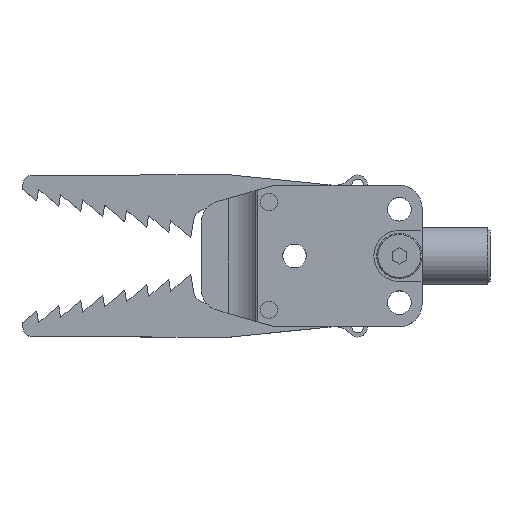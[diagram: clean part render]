
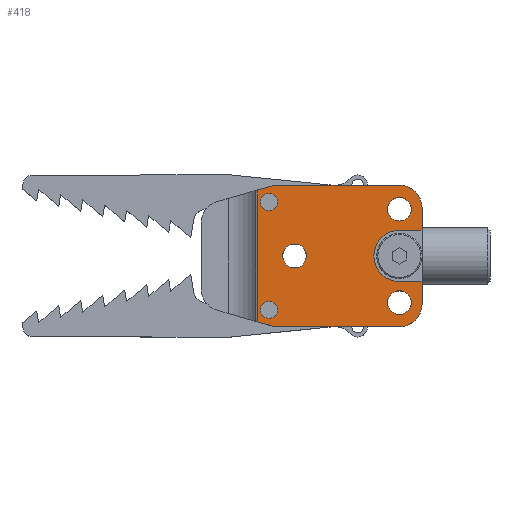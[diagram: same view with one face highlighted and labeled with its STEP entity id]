
A CAD part, top view. The second image highlights one B-rep face of the part: STEP entity #418.
In plain terms, the highlighted planar face has unit normal (0, 0, 1).
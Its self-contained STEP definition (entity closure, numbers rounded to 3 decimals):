
#418=ADVANCED_FACE('',(#789,#790,#791,#792,#793,#794),#795,.T.);
#789=FACE_BOUND('',#1175,.T.);
#790=FACE_BOUND('',#1176,.T.);
#791=FACE_BOUND('',#1177,.T.);
#792=FACE_BOUND('',#1178,.T.);
#793=FACE_BOUND('',#1179,.T.);
#794=FACE_OUTER_BOUND('',#1180,.T.);
#795=PLANE('',#1181);
#1175=EDGE_LOOP('',(#1949));
#1176=EDGE_LOOP('',(#1950));
#1177=EDGE_LOOP('',(#1951));
#1178=EDGE_LOOP('',(#1952));
#1179=EDGE_LOOP('',(#1953));
#1180=EDGE_LOOP('',(#1954,#1955,#1956,#1957,#1958,#1959,#1960,#1961,#1962,#1963,#1964,#1965));
#1181=AXIS2_PLACEMENT_3D('',#1966,#1967,#1968);
#1949=ORIENTED_EDGE('',*,*,#2434,.F.);
#1950=ORIENTED_EDGE('',*,*,#2437,.F.);
#1951=ORIENTED_EDGE('',*,*,#2440,.F.);
#1952=ORIENTED_EDGE('',*,*,#2446,.F.);
#1953=ORIENTED_EDGE('',*,*,#2448,.F.);
#1954=ORIENTED_EDGE('',*,*,#2545,.F.);
#1955=ORIENTED_EDGE('',*,*,#2546,.T.);
#1956=ORIENTED_EDGE('',*,*,#2547,.F.);
#1957=ORIENTED_EDGE('',*,*,#2548,.T.);
#1958=ORIENTED_EDGE('',*,*,#2549,.T.);
#1959=ORIENTED_EDGE('',*,*,#2534,.F.);
#1960=ORIENTED_EDGE('',*,*,#2460,.F.);
#1961=ORIENTED_EDGE('',*,*,#2464,.F.);
#1962=ORIENTED_EDGE('',*,*,#2456,.F.);
#1963=ORIENTED_EDGE('',*,*,#2533,.F.);
#1964=ORIENTED_EDGE('',*,*,#2550,.T.);
#1965=ORIENTED_EDGE('',*,*,#2551,.T.);
#1966=CARTESIAN_POINT('',(0.0,0.0,7.5));
#1967=DIRECTION('',(0.0,0.0,1.0));
#1968=DIRECTION('',(1.0,0.0,0.0));
#2434=EDGE_CURVE('',#2905,#2905,#2906,.T.);
#2437=EDGE_CURVE('',#2910,#2910,#2911,.T.);
#2440=EDGE_CURVE('',#2915,#2915,#2916,.T.);
#2446=EDGE_CURVE('',#2924,#2924,#2925,.T.);
#2448=EDGE_CURVE('',#2927,#2927,#2928,.T.);
#2456=EDGE_CURVE('',#2940,#2941,#2942,.T.);
#2460=EDGE_CURVE('',#2946,#2947,#2948,.T.);
#2464=EDGE_CURVE('',#2941,#2946,#2952,.T.);
#2533=EDGE_CURVE('',#3067,#2940,#3069,.T.);
#2534=EDGE_CURVE('',#2947,#3070,#3071,.T.);
#2545=EDGE_CURVE('',#3088,#3089,#3090,.T.);
#2546=EDGE_CURVE('',#3088,#3091,#3092,.F.);
#2547=EDGE_CURVE('',#3093,#3091,#3094,.T.);
#2548=EDGE_CURVE('',#3093,#3095,#3096,.T.);
#2549=EDGE_CURVE('',#3095,#3070,#3097,.T.);
#2550=EDGE_CURVE('',#3067,#3098,#3099,.T.);
#2551=EDGE_CURVE('',#3098,#3089,#3100,.T.);
#2905=VERTEX_POINT('',#3583);
#2906=CIRCLE('',#3584,2.1);
#2910=VERTEX_POINT('',#3588);
#2911=CIRCLE('',#3589,2.1);
#2915=VERTEX_POINT('',#3593);
#2916=CIRCLE('',#3594,2.1);
#2924=VERTEX_POINT('',#3602);
#2925=CIRCLE('',#3603,1.525);
#2927=VERTEX_POINT('',#3605);
#2928=CIRCLE('',#3606,1.525);
#2940=VERTEX_POINT('',#3622);
#2941=VERTEX_POINT('',#3623);
#2942=LINE('',#3624,#3625);
#2946=VERTEX_POINT('',#3631);
#2947=VERTEX_POINT('',#3632);
#2948=LINE('',#3633,#3634);
#2952=CIRCLE('',#3640,4.5);
#3067=VERTEX_POINT('',#3792);
#3069=LINE('',#3795,#3796);
#3070=VERTEX_POINT('',#3797);
#3071=LINE('',#3798,#3799);
#3088=VERTEX_POINT('',#3822);
#3089=VERTEX_POINT('',#3823);
#3090=LINE('',#3824,#3825);
#3091=VERTEX_POINT('',#3826);
#3092=LINE('',#3827,#3828);
#3093=VERTEX_POINT('',#3829);
#3094=LINE('',#3830,#3831);
#3095=VERTEX_POINT('',#3832);
#3096=LINE('',#3833,#3834);
#3097=CIRCLE('',#3835,4.0);
#3098=VERTEX_POINT('',#3836);
#3099=CIRCLE('',#3837,4.0);
#3100=LINE('',#3838,#3839);
#3583=CARTESIAN_POINT('',(12.1,8.25,7.5));
#3584=AXIS2_PLACEMENT_3D('',#4144,#4145,#4146);
#3588=CARTESIAN_POINT('',(12.1,-8.25,7.5));
#3589=AXIS2_PLACEMENT_3D('',#4150,#4151,#4152);
#3593=CARTESIAN_POINT('',(-6.4,0.,7.5));
#3594=AXIS2_PLACEMENT_3D('',#4156,#4157,#4158);
#3602=CARTESIAN_POINT('',(-11.475,-9.5,7.5));
#3603=AXIS2_PLACEMENT_3D('',#4165,#4166,#4167);
#3605=CARTESIAN_POINT('',(-11.475,9.5,7.5));
#3606=AXIS2_PLACEMENT_3D('',#4168,#4169,#4170);
#3622=CARTESIAN_POINT('',(14.0,4.5,7.5));
#3623=CARTESIAN_POINT('',(10.0,4.5,7.5));
#3624=CARTESIAN_POINT('',(10.0,4.5,7.5));
#3625=VECTOR('',#4178,1.0);
#3631=CARTESIAN_POINT('',(10.0,-4.5,7.5));
#3632=CARTESIAN_POINT('',(14.0,-4.5,7.5));
#3633=CARTESIAN_POINT('',(10.0,-4.5,7.5));
#3634=VECTOR('',#4181,1.0);
#3640=AXIS2_PLACEMENT_3D('',#4184,#4185,#4186);
#3792=CARTESIAN_POINT('',(14.0,8.5,7.5));
#3795=CARTESIAN_POINT('',(14.0,12.5,7.5));
#3796=VECTOR('',#4279,1.0);
#3797=CARTESIAN_POINT('',(14.0,-8.5,7.5));
#3798=CARTESIAN_POINT('',(14.0,12.5,7.5));
#3799=VECTOR('',#4280,1.0);
#3822=CARTESIAN_POINT('',(-14.997,11.641,7.5));
#3823=CARTESIAN_POINT('',(-12.0,12.5,7.5));
#3824=CARTESIAN_POINT('',(-26.0,8.486,7.5));
#3825=VECTOR('',#4293,1.0);
#3826=CARTESIAN_POINT('',(-14.997,-11.641,7.5));
#3827=CARTESIAN_POINT('',(-14.997,-11.57,7.5));
#3828=VECTOR('',#4294,1.0);
#3829=CARTESIAN_POINT('',(-12.0,-12.5,7.5));
#3830=CARTESIAN_POINT('',(-26.0,-8.486,7.5));
#3831=VECTOR('',#4295,1.0);
#3832=CARTESIAN_POINT('',(10.0,-12.5,7.5));
#3833=CARTESIAN_POINT('',(-26.0,-12.5,7.5));
#3834=VECTOR('',#4296,1.0);
#3835=AXIS2_PLACEMENT_3D('',#4297,#4298,#4299);
#3836=CARTESIAN_POINT('',(10.0,12.5,7.5));
#3837=AXIS2_PLACEMENT_3D('',#4300,#4301,#4302);
#3838=CARTESIAN_POINT('',(-26.0,12.5,7.5));
#3839=VECTOR('',#4303,1.0);
#4144=CARTESIAN_POINT('',(10.0,8.25,7.5));
#4145=DIRECTION('',(0.0,0.0,1.0));
#4146=DIRECTION('',(1.0,0.0,0.0));
#4150=CARTESIAN_POINT('',(10.0,-8.25,7.5));
#4151=DIRECTION('',(0.0,0.0,1.0));
#4152=DIRECTION('',(1.0,0.0,0.0));
#4156=CARTESIAN_POINT('',(-8.5,0.,7.5));
#4157=DIRECTION('',(0.0,0.0,1.0));
#4158=DIRECTION('',(1.0,0.0,0.0));
#4165=CARTESIAN_POINT('',(-13.0,-9.5,7.5));
#4166=DIRECTION('',(0.0,0.0,1.0));
#4167=DIRECTION('',(1.0,0.0,0.0));
#4168=CARTESIAN_POINT('',(-13.0,9.5,7.5));
#4169=DIRECTION('',(0.0,0.0,1.0));
#4170=DIRECTION('',(1.0,0.0,0.0));
#4178=DIRECTION('',(-1.0,0.0,0.0));
#4181=DIRECTION('',(1.0,0.0,0.0));
#4184=CARTESIAN_POINT('',(10.0,0.0,7.5));
#4185=DIRECTION('',(0.0,0.0,1.0));
#4186=DIRECTION('',(1.0,0.0,0.0));
#4279=DIRECTION('',(0.,-1.0,0.));
#4280=DIRECTION('',(0.,-1.0,0.));
#4293=DIRECTION('',(0.961,0.276,0.0));
#4294=DIRECTION('',(0.0,1.0,0.0));
#4295=DIRECTION('',(-0.961,0.276,0.0));
#4296=DIRECTION('',(1.0,0.0,0.0));
#4297=CARTESIAN_POINT('',(10.0,-8.5,7.5));
#4298=DIRECTION('',(0.0,0.0,1.0));
#4299=DIRECTION('',(1.0,0.0,0.0));
#4300=CARTESIAN_POINT('',(10.0,8.5,7.5));
#4301=DIRECTION('',(0.0,0.0,1.0));
#4302=DIRECTION('',(1.0,0.0,0.0));
#4303=DIRECTION('',(-1.0,0.0,0.0));
